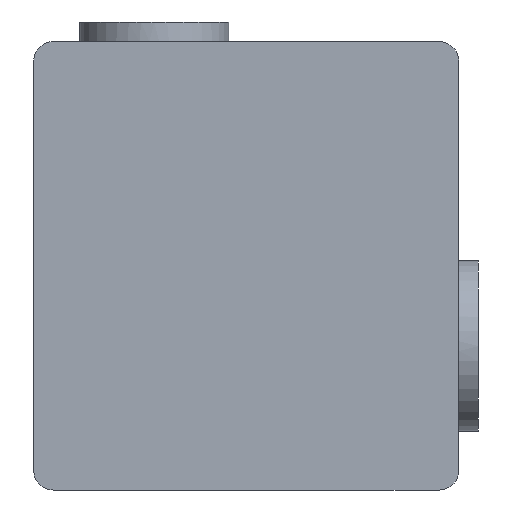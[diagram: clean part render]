
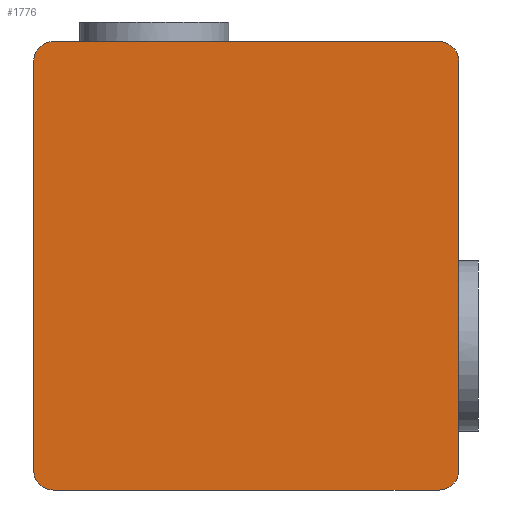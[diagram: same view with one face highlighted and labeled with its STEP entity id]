
A CAD part, front view. The second image highlights one B-rep face of the part: STEP entity #1776.
In plain terms, the highlighted planar face has unit normal (0, -1, 0).
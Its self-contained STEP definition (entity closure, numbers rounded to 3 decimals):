
#11 = CIRCLE ( 'NONE', #2234, 10. ) ;
#12 = DIRECTION ( 'NONE',  ( 1., 0., 0. ) ) ;
#15 = EDGE_CURVE ( 'NONE', #2112, #120, #1104, .T. ) ;
#36 = DIRECTION ( 'NONE',  ( 0., 0., 1. ) ) ;
#42 = LINE ( 'NONE', #1064, #494 ) ;
#48 = CARTESIAN_POINT ( 'NONE',  ( -98.5, 0., 104.5 ) ) ;
#53 = CARTESIAN_POINT ( 'NONE',  ( 98.5, 0., 114.5 ) ) ;
#67 = ORIENTED_EDGE ( 'NONE', *, *, #1383, .T. ) ;
#120 = VERTEX_POINT ( 'NONE', #574 ) ;
#153 = EDGE_LOOP ( 'NONE', ( #390, #1549, #2202, #67, #654, #851, #1898, #716 ) ) ;
#156 = CIRCLE ( 'NONE', #909, 10. ) ;
#175 = LINE ( 'NONE', #896, #1415 ) ;
#204 = VERTEX_POINT ( 'NONE', #498 ) ;
#216 = CARTESIAN_POINT ( 'NONE',  ( 108.5, 0., 104.5 ) ) ;
#287 = EDGE_CURVE ( 'NONE', #327, #204, #42, .T. ) ;
#327 = VERTEX_POINT ( 'NONE', #939 ) ;
#331 = DIRECTION ( 'NONE',  ( 0., -1., 0. ) ) ;
#335 = CIRCLE ( 'NONE', #1795, 10. ) ;
#390 = ORIENTED_EDGE ( 'NONE', *, *, #1695, .F. ) ;
#399 = DIRECTION ( 'NONE',  ( 0., 0., -1. ) ) ;
#494 = VECTOR ( 'NONE', #1452, 1000. ) ;
#498 = CARTESIAN_POINT ( 'NONE',  ( -98.5, 0., -114.5 ) ) ;
#529 = EDGE_CURVE ( 'NONE', #866, #204, #335, .T. ) ;
#574 = CARTESIAN_POINT ( 'NONE',  ( 108.5, 0., -104.5 ) ) ;
#612 = CARTESIAN_POINT ( 'NONE',  ( -108.5, 0., 104.5 ) ) ;
#614 = VERTEX_POINT ( 'NONE', #1780 ) ;
#654 = ORIENTED_EDGE ( 'NONE', *, *, #15, .F. ) ;
#681 = CARTESIAN_POINT ( 'NONE',  ( -108.5, 0., -104.5 ) ) ;
#716 = ORIENTED_EDGE ( 'NONE', *, *, #2155, .T. ) ;
#757 = DIRECTION ( 'NONE',  ( 0., -1., 0. ) ) ;
#851 = ORIENTED_EDGE ( 'NONE', *, *, #2235, .T. ) ;
#866 = VERTEX_POINT ( 'NONE', #681 ) ;
#896 = CARTESIAN_POINT ( 'NONE',  ( 108.5, 0., 114.5 ) ) ;
#909 = AXIS2_PLACEMENT_3D ( 'NONE', #48, #1890, #36 ) ;
#939 = CARTESIAN_POINT ( 'NONE',  ( 98.5, 0., -114.5 ) ) ;
#956 = DIRECTION ( 'NONE',  ( 0., 0., 1. ) ) ;
#977 = DIRECTION ( 'NONE',  ( 0., 0., 1. ) ) ;
#1064 = CARTESIAN_POINT ( 'NONE',  ( 108.5, 0., -114.5 ) ) ;
#1071 = VERTEX_POINT ( 'NONE', #53 ) ;
#1104 = LINE ( 'NONE', #1814, #1986 ) ;
#1130 = CARTESIAN_POINT ( 'NONE',  ( -108.5, 0., 114.5 ) ) ;
#1286 = VERTEX_POINT ( 'NONE', #612 ) ;
#1308 = PLANE ( 'NONE',  #1800 ) ;
#1383 = EDGE_CURVE ( 'NONE', #327, #120, #11, .T. ) ;
#1395 = DIRECTION ( 'NONE',  ( 0., 0., 1. ) ) ;
#1415 = VECTOR ( 'NONE', #12, 1000. ) ;
#1452 = DIRECTION ( 'NONE',  ( -1., 0., 0. ) ) ;
#1464 = CARTESIAN_POINT ( 'NONE',  ( 98.5, 0., 104.5 ) ) ;
#1468 = LINE ( 'NONE', #1130, #1830 ) ;
#1539 = CARTESIAN_POINT ( 'NONE',  ( 98.5, 0., -104.5 ) ) ;
#1549 = ORIENTED_EDGE ( 'NONE', *, *, #529, .T. ) ;
#1632 = CIRCLE ( 'NONE', #2092, 10. ) ;
#1637 = CARTESIAN_POINT ( 'NONE',  ( 0., 0., 0. ) ) ;
#1665 = EDGE_CURVE ( 'NONE', #614, #1071, #175, .T. ) ;
#1695 = EDGE_CURVE ( 'NONE', #866, #1286, #1468, .T. ) ;
#1723 = DIRECTION ( 'NONE',  ( 0., -1., 0. ) ) ;
#1776 = ADVANCED_FACE ( 'NONE', ( #1833 ), #1308, .F. ) ;
#1780 = CARTESIAN_POINT ( 'NONE',  ( -98.5, 0., 114.5 ) ) ;
#1785 = DIRECTION ( 'NONE',  ( 0., 0., 1. ) ) ;
#1795 = AXIS2_PLACEMENT_3D ( 'NONE', #1809, #757, #956 ) ;
#1800 = AXIS2_PLACEMENT_3D ( 'NONE', #1637, #2141, #977 ) ;
#1809 = CARTESIAN_POINT ( 'NONE',  ( -98.5, 0., -104.5 ) ) ;
#1814 = CARTESIAN_POINT ( 'NONE',  ( 108.5, 0., 114.5 ) ) ;
#1830 = VECTOR ( 'NONE', #2016, 1000. ) ;
#1833 = FACE_OUTER_BOUND ( 'NONE', #153, .T. ) ;
#1890 = DIRECTION ( 'NONE',  ( 0., -1., 0. ) ) ;
#1898 = ORIENTED_EDGE ( 'NONE', *, *, #1665, .F. ) ;
#1986 = VECTOR ( 'NONE', #399, 1000. ) ;
#2016 = DIRECTION ( 'NONE',  ( 0., 0., 1. ) ) ;
#2092 = AXIS2_PLACEMENT_3D ( 'NONE', #1464, #1723, #1785 ) ;
#2112 = VERTEX_POINT ( 'NONE', #216 ) ;
#2141 = DIRECTION ( 'NONE',  ( 0., 1., 0. ) ) ;
#2155 = EDGE_CURVE ( 'NONE', #614, #1286, #156, .T. ) ;
#2202 = ORIENTED_EDGE ( 'NONE', *, *, #287, .F. ) ;
#2234 = AXIS2_PLACEMENT_3D ( 'NONE', #1539, #331, #1395 ) ;
#2235 = EDGE_CURVE ( 'NONE', #2112, #1071, #1632, .T. ) ;
